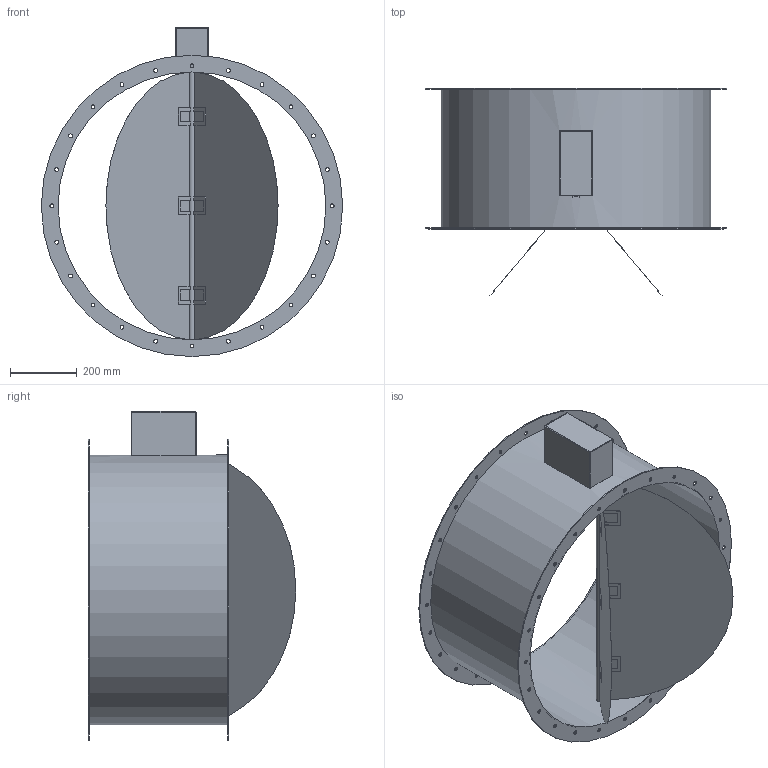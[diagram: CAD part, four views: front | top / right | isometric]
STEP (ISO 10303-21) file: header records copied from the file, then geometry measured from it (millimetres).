
FILE_DESCRIPTION(/* description */ (''),/* implementation_level */ '2;1');
FILE_NAME(/* name */ 'Z:\Output\RVM_800-02614-002.stp',/* time_stamp */ '2020-06-26T09:53:50+02:00',/* author */ ('engineering1'),/* organization */ (''),/* preprocessor_version */ 'ST-DEVELOPER v17.2',/* originating_system */ 'Autodesk Inventor 2019',/* authorisation */ '');
FILE_SCHEMA (('AUTOMOTIVE_DESIGN { 1 0 10303 214 3 1 1 }'));
Length unit declared in the file: millimetre
Products named in the file (1): RVM-1
Bounding box: 900 x 620.06 x 983 mm (x, y, z)
Volume: 6717747.8 mm3; surface area: 3736097.9 mm2
Topology: 1 solids, 1 shells, 140 faces, 391 edges, 258 vertices
Faces by surface type: plane 73, cylinder 63, sphere 4
Full cylindrical faces by diameter (mm): 11.5 x48, 20 x1, 800 x1, 806 x1, 900 x2
Entity records: 4868 total; most frequent: CARTESIAN_POINT 908, DIRECTION 805, ORIENTED_EDGE 782, EDGE_CURVE 391, AXIS2_PLACEMENT_3D 287, VERTEX_POINT 258, EDGE_LOOP 245, LINE 231
